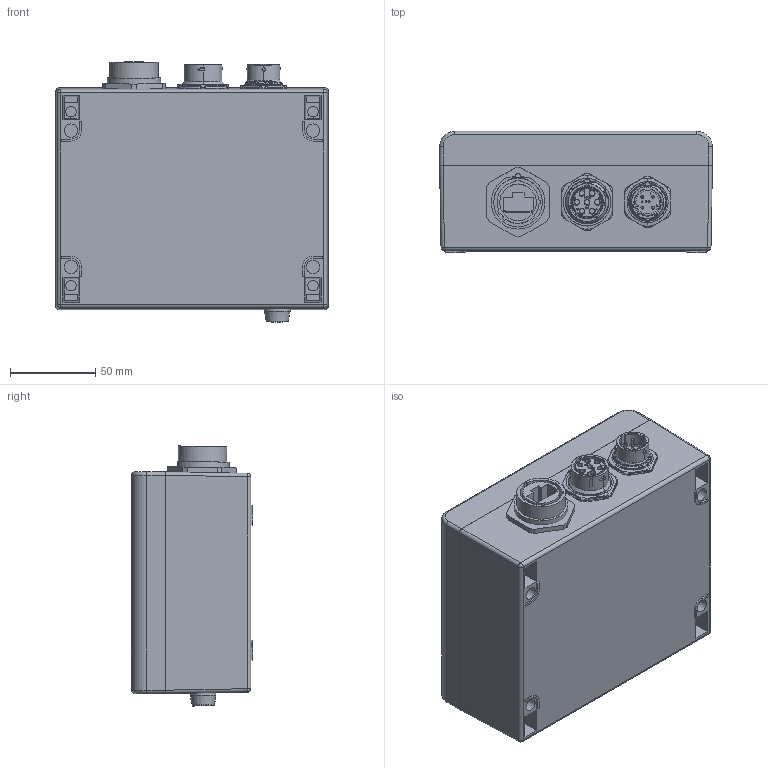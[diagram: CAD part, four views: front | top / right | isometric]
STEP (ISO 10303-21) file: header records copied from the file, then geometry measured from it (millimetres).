
FILE_DESCRIPTION (( 'STEP AP214' ), '1' );
FILE_NAME ('Gemini VDSL Adaptor Unit.STEP', '2015-01-27T09:46:56', ( 'Allan' ), ( 'Microsoft' ), 'SwSTEP 2.0', 'SolidWorks 2013', '' );
FILE_SCHEMA (( 'AUTOMOTIVE_DESIGN' ));
Length unit declared in the file: inch
Products named in the file (1): Gemini VDSL Adaptor Unit
Bounding box: 160.05 x 71 x 152.59 mm (x, y, z)
Surface area: 106921.2 mm2 (no closed solid volume)
Topology: 0 solids, 271 shells, 443 faces, 3128 edges, 2934 vertices
Faces by surface type: plane 188, cylinder 156, bspline 70, cone 21, sphere 4, torus 4
Full cylindrical faces by diameter (mm): 3 x12, 7.7 x4, 11.75 x1, 12 x1, 13.8 x1, 15 x1, 21.4 x1, 28.5 x1
Entity records: 45942 total; most frequent: CARTESIAN_POINT 18906, DIRECTION 3656, ORIENTED_EDGE 3456, EDGE_CURVE 3085, VERTEX_POINT 2934, VECTOR 1844, LINE 1844, AXIS2_PLACEMENT_3D 906
